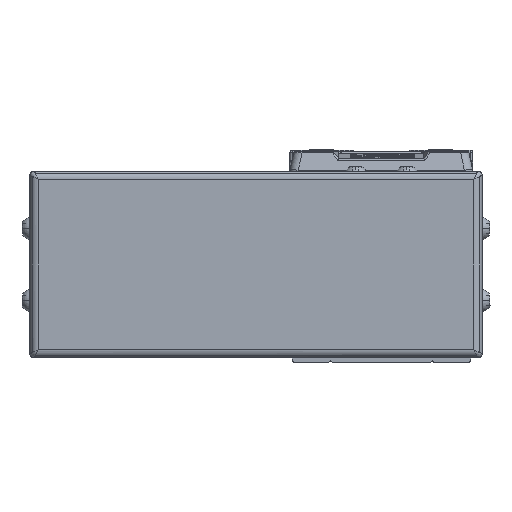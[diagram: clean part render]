
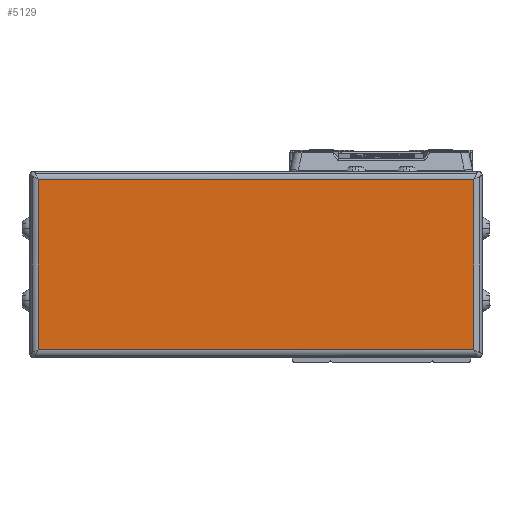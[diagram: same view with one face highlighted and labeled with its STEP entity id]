
A CAD part, left-side view. The second image highlights one B-rep face of the part: STEP entity #5129.
In plain terms, the highlighted planar face has unit normal (-1, 0, 0).
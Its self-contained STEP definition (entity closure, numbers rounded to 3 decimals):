
#5129=ADVANCED_FACE('',(#10413),#10414,.F.);
#10413=FACE_OUTER_BOUND('',#18816,.T.);
#10414=PLANE('',#18817);
#18816=EDGE_LOOP('',(#33645,#33646,#33647,#33648));
#18817=AXIS2_PLACEMENT_3D('',#33649,#33650,#33651);
#33645=ORIENTED_EDGE('',*,*,#40558,.T.);
#33646=ORIENTED_EDGE('',*,*,#37456,.T.);
#33647=ORIENTED_EDGE('',*,*,#35504,.T.);
#33648=ORIENTED_EDGE('',*,*,#39016,.T.);
#33649=CARTESIAN_POINT('',(-48.,29.5,-4.));
#33650=DIRECTION('',(1.0,0.,0.));
#33651=DIRECTION('',(0.,0.,1.0));
#35504=EDGE_CURVE('',#42248,#42246,#42249,.T.);
#37456=EDGE_CURVE('',#45436,#42248,#45437,.T.);
#39016=EDGE_CURVE('',#42246,#47651,#47653,.T.);
#40558=EDGE_CURVE('',#47651,#45436,#49448,.T.);
#42246=VERTEX_POINT('',#51672);
#42248=VERTEX_POINT('',#51674);
#42249=LINE('',#51675,#51676);
#45436=VERTEX_POINT('',#56275);
#45437=LINE('',#56276,#56277);
#47651=VERTEX_POINT('',#59718);
#47653=LINE('',#59720,#59721);
#49448=LINE('',#62347,#62348);
#51672=CARTESIAN_POINT('',(-48.,-21.7,-24.));
#51674=CARTESIAN_POINT('',(-48.,80.7,-24.));
#51675=CARTESIAN_POINT('',(-48.,29.5,-24.));
#51676=VECTOR('',#63744,10.0);
#56275=CARTESIAN_POINT('',(-48.,80.7,16.));
#56276=CARTESIAN_POINT('',(-48.,80.7,-4.));
#56277=VECTOR('',#66373,10.0);
#59718=CARTESIAN_POINT('',(-48.,-21.7,16.));
#59720=CARTESIAN_POINT('',(-48.,-21.7,-4.));
#59721=VECTOR('',#68259,10.0);
#62347=CARTESIAN_POINT('',(-48.,29.5,16.));
#62348=VECTOR('',#69835,10.0);
#63744=DIRECTION('',(0.,-1.0,0.));
#66373=DIRECTION('',(0.,0.,-1.0));
#68259=DIRECTION('',(0.,0.,1.0));
#69835=DIRECTION('',(0.,1.0,0.));
